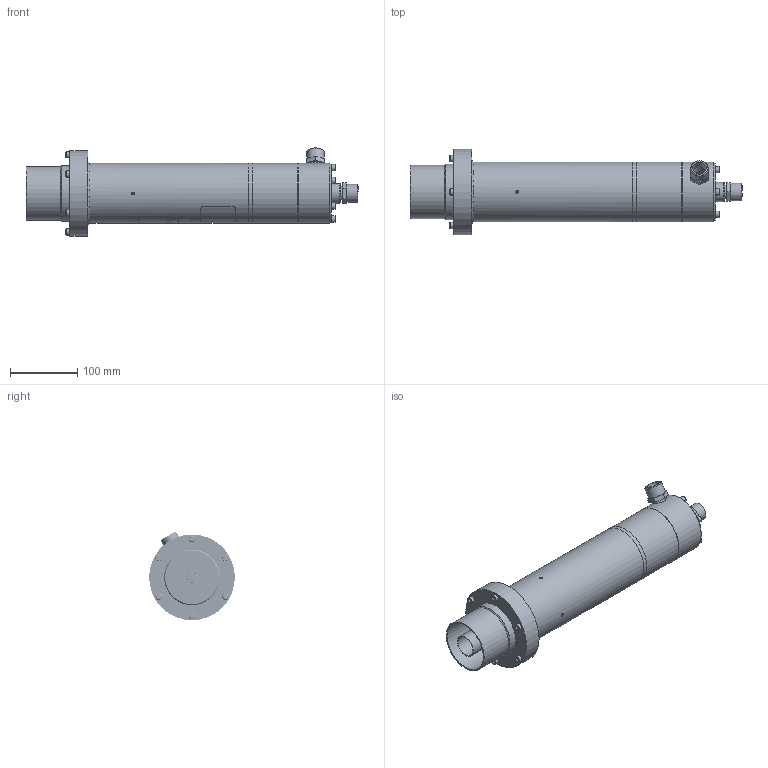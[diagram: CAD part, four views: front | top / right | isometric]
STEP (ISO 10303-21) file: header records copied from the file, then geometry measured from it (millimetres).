
FILE_DESCRIPTION( ( 'Unknown' ), '1' );
FILE_NAME( 'Q:/PROJECTS/Library of Standard Models/ECONOLOADS/8755/Mechanical/8746-par.stp', 'Unknown', ( 'Unknown' ), ( 'Unknown' ), 'PSStep 17.0.49', 'Unknown', ' ' );
FILE_SCHEMA( ( 'AUTOMOTIVE_DESIGN { 1 0 10303 214 1 1 1 1 }' ) );
Length unit declared in the file: inch
Products named in the file (1): 8750-057_WARNING_LABEL_FORMED
Bounding box: 491.99 x 127 x 131.05 mm (x, y, z)
Surface area: 620605 mm2 (no closed solid volume)
Topology: 0 solids, 1126 shells, 1213 faces, 6864 edges, 6493 vertices
Faces by surface type: plane 488, cylinder 316, cone 197, torus 196, bspline 15, sphere 1
Full cylindrical faces by diameter (mm): 2.647 x6, 3.175 x6, 4.039 x3, 4.762 x4, 4.826 x8, 4.976 x81, 6.35 x6, 6.604 x6, 7.061 x6, 7.087 x6, 7.144 x6, 7.805 x1, 8.572 x1, 9.398 x6, 9.525 x8, 10.262 x1, 11.43 x1, 12.7 x2, 14.173 x1, 14.275 x1, 15 x2, 15.748 x1, 16.002 x1, 18.796 x1, 18.923 x2, 19.05 x3, 19.228 x1, 20 x2, 20.777 x1, 20.96 x2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
Entity records: 128578 total; most frequent: CARTESIAN_POINT 76266, DIRECTION 8560, VERTEX_POINT 6106, ORIENTED_EDGE 6092, EDGE_CURVE 6092, AXIS2_PLACEMENT_3D 3608, CIRCLE 2488, B_SPLINE_CURVE_WITH_KNOTS 2136
